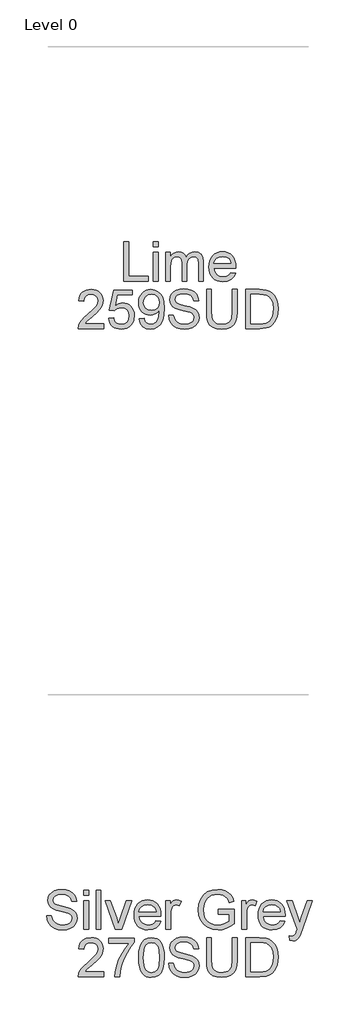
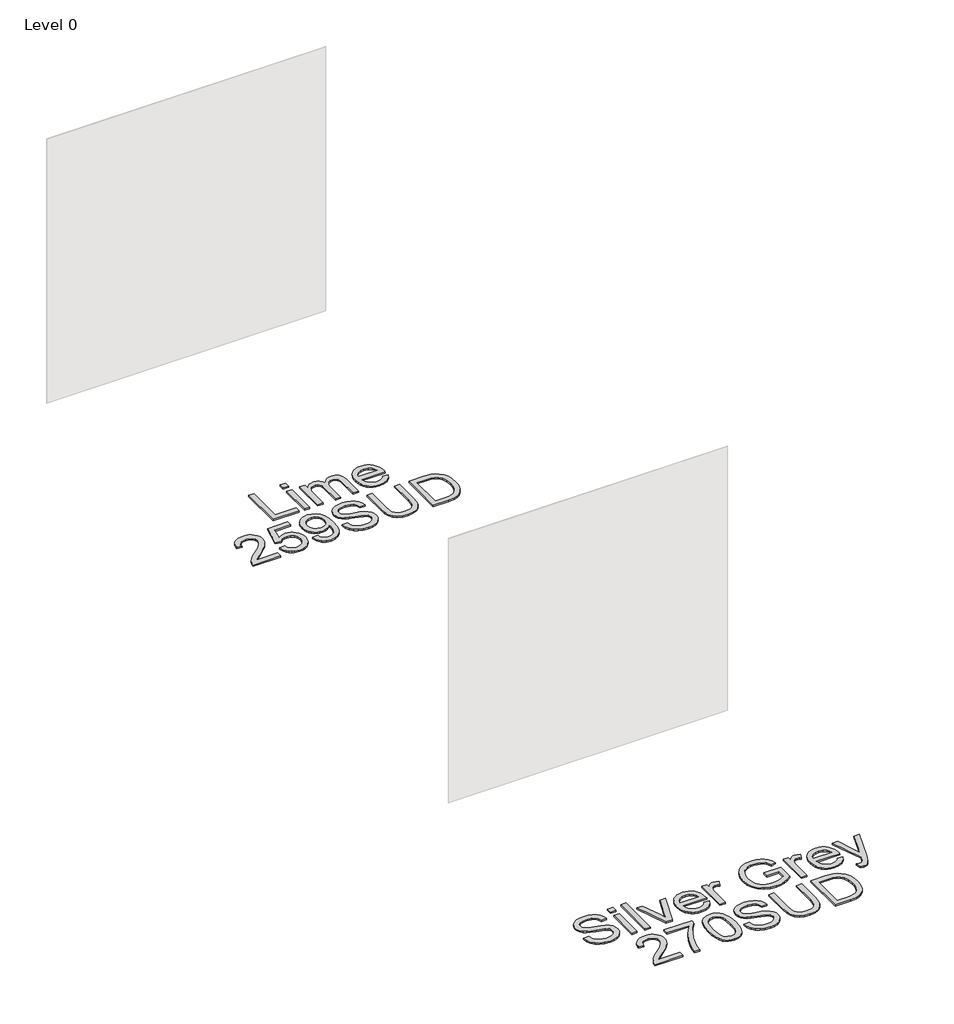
# One storey, part 7 of 37: 2 proxies.
"""IFC4 building model written with IfcOpenShell, lengths in millimetres."""

from ifc_helpers import new_model, si_unit, origin, origin_with_axes, place, context, project, spatial, polyline, outline, extrude, element, save

model = new_model("IFC4")

# Units and contexts
model_context = context("Model", 3, world=origin())
ifc_project = project(units=[si_unit("LENGTHUNIT", "METRE", prefix="MILLI")], contexts=[model_context])

# Site, building, storey
site = spatial("IfcSite", under=ifc_project)
building = spatial("IfcBuilding", under=site)
storey = spatial("IfcBuildingStorey", under=building, Name="Level 0", Elevation=0.0)

# Proxies
placement = place(None, origin())
element("IfcBuildingElementProxy", 1, Name="300mm Arial", ObjectType="300mm Arial", at=placement, inside=storey, context=model_context, shape_type="SweptSolid", body=[
    extrude(outline(polyline([(-4869.7492252, -26962.860494), (-4869.7492252, -26661.4915635), (-4832.0781089, -26661.4915635), (-4832.0781089, -26925.1893777), (-4681.3936437, -26925.1893777), (-4681.3936437, -26962.860494), (-4869.7492252, -26962.860494)])), origin_with_axes(), (0.0, 0.0, 1.0), 10.0),
    extrude(outline(polyline([(-4643.7225274, -26962.860494), (-4643.7225274, -26741.5426857), (-4606.0514111, -26741.5426857), (-4606.0514111, -26962.860494), (-4643.7225274, -26962.860494)])), origin_with_axes(), (0.0, 0.0, 1.0), 10.0),
    extrude(outline(polyline([(-4643.7225274, -26699.1626798), (-4643.7225274, -26661.4915635), (-4606.0514111, -26661.4915635), (-4606.0514111, -26699.1626798), (-4643.7225274, -26699.1626798)])), origin_with_axes(), (0.0, 0.0, 1.0), 10.0),
    extrude(outline(polyline([(-4549.5447366, -26962.860494), (-4549.5447366, -26741.5426857), (-4511.8736203, -26741.5426857), (-4511.8736203, -26777.9630032), (-4500.5428549, -26761.2335695), (-4485.9747278, -26748.1277734), (-4468.66588, -26739.6572905), (-4449.1129519, -26736.8337961), (-4428.1620723, -26739.7124728), (-4411.3682592, -26748.3485026), (-4398.8234832, -26762.1716686), (-4390.6197147, -26780.6117536), (-4376.8885192, -26761.4588972), (-4361.2259433, -26747.7782855), (-4343.6319869, -26739.5699185), (-4324.10665, -26736.8337961), (-4295.7889334, -26741.3863358), (-4274.8472508, -26755.0439549), (-4261.9070016, -26778.1745354), (-4257.5935852, -26811.1459592), (-4257.5935852, -26962.860494), (-4295.2647015, -26962.860494), (-4295.2647015, -26827.332767), (-4298.7595805, -26795.8788564), (-4303.6708051, -26787.2060383), (-4311.4147211, -26780.3910244), (-4321.3751262, -26775.9764404), (-4332.9358179, -26774.5049125), (-4353.3440715, -26778.2757029), (-4369.9815348, -26789.5880743), (-4381.0455858, -26809.2145787), (-4384.7336028, -26837.9277684), (-4384.7336028, -26962.860494), (-4422.4047191, -26962.860494), (-4422.4047191, -26823.1389122), (-4424.5844199, -26801.8385447), (-4431.1235224, -26786.6450183), (-4442.6290318, -26777.5399389), (-4459.7079534, -26774.5049125), (-4474.2208981, -26776.5282634), (-4487.5934086, -26782.5983163), (-4498.6298685, -26792.5679184), (-4506.1346612, -26806.2899168), (-4510.4388805, -26825.3278101), (-4511.8736203, -26851.2450966), (-4511.8736203, -26962.860494), (-4549.5447366, -26962.860494)])), origin_with_axes(), (0.0, 0.0, 1.0), 10.0),
    extrude(outline(polyline([(-4046.1350144, -26896.9360404), (-4009.1996621, -26901.64493), (-4022.5077933, -26929.4752029), (-4043.7437814, -26950.2789297), (-4072.42938, -26963.2467701), (-4108.0863424, -26967.5693835), (-4131.4606447, -26965.7046817), (-4152.2873641, -26960.1105761), (-4170.5665008, -26950.7870668), (-4186.2980546, -26937.7341537), (-4198.9485967, -26921.3151204), (-4207.9846982, -26901.8932503), (-4213.4063591, -26879.4685435), (-4215.2135794, -26854.0409998), (-4213.387965, -26827.7512327), (-4207.9111218, -26804.5792656), (-4198.7830498, -26784.5250983), (-4186.003749, -26767.5887309), (-4170.3135819, -26754.133447), (-4152.452911, -26744.5225298), (-4132.4217364, -26738.7559796), (-4110.220058, -26736.8337961), (-4088.7334502, -26738.751381), (-4069.3023831, -26744.5041357), (-4051.9268566, -26754.0920602), (-4036.6068707, -26767.5151545), (-4024.1011822, -26784.4147337), (-4015.1685475, -26804.4321128), (-4009.8089666, -26827.5672917), (-4008.0224397, -26853.8202706), (-4008.2431689, -26863.9738137), (-4177.5424631, -26863.9738137), (-4171.0217547, -26892.1719686), (-4155.8742136, -26912.902119), (-4134.012826, -26925.6492302), (-4107.3505784, -26929.8982672), (-4087.3010097, -26927.9300985), (-4070.4152261, -26922.0255925), (-4056.6932277, -26911.8168672), (-4046.1350144, -26896.9360404)]), holes=[polyline([(-4177.5424631, -26826.3026974), (-4045.693556, -26826.3026974), (-4050.7887216, -26806.4002814), (-4060.7767178, -26792.1632482), (-4082.7392729, -26778.9194964), (-4110.3672108, -26774.5049125), (-4135.7602655, -26778.0273826), (-4156.7571304, -26788.5947929), (-4171.3528485, -26805.0667092), (-4177.5424631, -26826.3026974)])]), origin_with_axes(), (0.0, 0.0, 1.0), 10.0),
    extrude(outline(polyline([(-5025.14258, -27291.1138312), (-5025.14258, -27328.7849475), (-5222.9159406, -27328.7849475), (-5218.8692386, -27302.8124787), (-5209.5802183, -27282.5145896), (-5195.9869785, -27262.8237058), (-5176.3236859, -27242.213117), (-5148.8245068, -27219.156113), (-5108.1735463, -27183.0484951), (-5083.78297, -27156.3954446), (-5071.5876819, -27134.7639833), (-5067.5225858, -27113.7211331), (-5071.3577556, -27094.8579838), (-5082.863265, -27079.1770138), (-5100.5491919, -27068.6096035), (-5122.9256143, -27065.0871334), (-5146.4240767, -27068.52683), (-5164.6802207, -27078.84592), (-5176.4616416, -27095.2350629), (-5180.5359347, -27116.8849183), (-5218.207051, -27112.1760288), (-5209.0743805, -27075.7373171), (-5200.5280219, -27061.2013798), (-5189.3283144, -27049.1210548), (-5175.7327754, -27039.6251008), (-5159.9989224, -27032.8422765), (-5122.1162739, -27027.4160171), (-5101.9264502, -27028.9243332), (-5083.957714, -27033.4492818), (-5068.2100653, -27040.9908627), (-5054.6835042, -27051.549076), (-5043.819489, -27064.3421723), (-5036.0594782, -27078.5884026), (-5031.4034717, -27094.2877667), (-5029.8514695, -27111.4402648), (-5031.5253326, -27129.4572855), (-5036.5469218, -27147.1616065), (-5045.4588632, -27165.1694302), (-5058.8037825, -27184.0969588), (-5080.0765589, -27206.6941104), (-5112.7720712, -27235.7108027), (-5156.1085703, -27271.9471793), (-5173.1047184, -27291.1138312), (-5025.14258, -27291.1138312)])), origin_with_axes(), (0.0, 0.0, 1.0), 10.0),
    extrude(outline(polyline([(-4987.4714637, -27248.7338254), (-4949.8003474, -27244.0249358), (-4942.8841659, -27266.6404815), (-4930.8176364, -27282.8364863), (-4913.6559413, -27292.5761621), (-4891.4542629, -27295.8227207), (-4864.4517245, -27291.3069693), (-4844.2182147, -27277.7597148), (-4831.5814682, -27256.7444558), (-4827.3692194, -27229.8246908), (-4831.3147538, -27204.4776213), (-4843.151357, -27185.0902402), (-4862.9709995, -27172.7845875), (-4890.8656517, -27168.6827032), (-4909.1401898, -27170.3197781), (-4923.9382431, -27175.2310027), (-4945.0914578, -27192.2271509), (-4982.7625741, -27187.5182614), (-4949.8003474, -27032.1249066), (-4803.8247717, -27032.1249066), (-4803.8247717, -27069.7960229), (-4919.3397182, -27069.7960229), (-4935.4529496, -27152.790201), (-4908.5423816, -27136.4562404), (-4880.3442267, -27131.0115869), (-4861.9984114, -27132.6992456), (-4845.1471168, -27137.7622215), (-4829.7903427, -27146.2005148), (-4815.9280893, -27158.0141254), (-4804.4524703, -27172.4810848), (-4796.2555996, -27188.8794248), (-4791.3374772, -27207.2091452), (-4789.6981031, -27227.470246), (-4795.6026091, -27265.1413624), (-4802.9832416, -27281.9351754), (-4813.3161272, -27297.3678251), (-4828.969506, -27313.1729553), (-4847.2348471, -27324.4623341), (-4868.1121503, -27331.2359613), (-4891.6014157, -27333.4938371), (-4928.6011474, -27327.6904986), (-4944.2798182, -27320.4363255), (-4958.0776923, -27310.2804832), (-4969.5579098, -27297.7288093), (-4978.2836108, -27283.2871418), (-4987.4714637, -27248.7338254)])), origin_with_axes(), (0.0, 0.0, 1.0), 10.0),
    extrude(outline(polyline([(-4752.0269868, -27253.4427149), (-4714.3558705, -27248.7338254), (-4707.9179355, -27270.1169663), (-4697.4332987, -27284.6758963), (-4683.1594773, -27293.0360146), (-4665.3539887, -27295.8227207), (-4649.3787131, -27294.029296), (-4634.8565713, -27288.6490218), (-4622.7900419, -27280.2705094), (-4614.1816032, -27269.4823699), (-4601.8575563, -27236.7408723), (-4596.4129028, -27193.0364913), (-4596.633632, -27185.6788514), (-4609.6842458, -27201.6081418), (-4626.7631674, -27214.2264942), (-4646.6379922, -27222.4486568), (-4668.0763155, -27225.1893777), (-4685.9714753, -27223.5155146), (-4702.4272968, -27218.4939254), (-4717.4437799, -27210.12461), (-4731.0209248, -27198.4075684), (-4742.2712161, -27183.9544045), (-4750.3071384, -27167.3767221), (-4755.1286918, -27148.6745212), (-4756.7358763, -27127.8478018), (-4755.0505169, -27106.326705), (-4749.9944387, -27087.0129003), (-4741.5676418, -27069.9063875), (-4729.770126, -27055.0071667), (-4715.4342245, -27042.9360387), (-4699.3922703, -27034.3138045), (-4681.6442633, -27029.1404639), (-4662.1902035, -27027.4160171), (-4634.0932162, -27031.3523544), (-4608.5162204, -27043.1613665), (-4587.1238824, -27062.254442), (-4571.5808681, -27088.0429699), (-4562.1171038, -27123.6907352), (-4558.9625157, -27172.3615232), (-4562.1079067, -27223.96617), (-4571.5440799, -27263.8537754), (-4587.1882618, -27293.8269609), (-4608.9576788, -27315.6883485), (-4635.914232, -27329.0424649), (-4667.1198223, -27333.4938371), (-4699.3278909, -27328.2423216), (-4725.0244483, -27312.4877751), (-4742.9954838, -27287.2234791), (-4752.0269868, -27253.4427149)]), holes=[polyline([(-4596.633632, -27126.964885), (-4600.698728, -27101.4338745), (-4612.8940162, -27081.788976), (-4631.8215448, -27069.262594), (-4656.0833624, -27065.0871334), (-4681.2464909, -27069.5844908), (-4701.4064242, -27083.0765629), (-4714.650176, -27103.7239399), (-4719.06476, -27129.6872117), (-4714.8892993, -27152.964945), (-4702.3629174, -27171.4418182), (-4682.6996248, -27183.4991506), (-4657.113432, -27187.5182614), (-4633.0447525, -27183.4991506), (-4613.6665684, -27171.4418182), (-4600.8918661, -27152.2843633), (-4596.633632, -27126.964885)])]), origin_with_axes(), (0.0, 0.0, 1.0), 10.0),
    extrude(outline(polyline([(-4526.0002889, -27225.1893777), (-4488.3291726, -27225.1893777), (-4484.0065592, -27246.0942721), (-4476.1890668, -27262.8972822), (-4463.9937786, -27276.2330045), (-4446.537778, -27286.7360355), (-4425.2006222, -27293.5510494), (-4401.361869, -27295.8227207), (-4380.3742011, -27294.1028724), (-4361.9984955, -27288.9433274), (-4347.1084717, -27280.7763471), (-4336.5778496, -27270.0341929), (-4330.3146586, -27257.700949), (-4328.2269283, -27244.7606998), (-4329.7904268, -27232.1515444), (-4334.4809222, -27221.2530403), (-4344.0090659, -27211.9548229), (-4360.0855091, -27204.1465276), (-4414.9367146, -27189.7623415), (-4450.9431649, -27180.2433949), (-4473.9817748, -27171.1843008), (-4492.7345595, -27158.510766), (-4506.0242966, -27143.1516928), (-4513.9429565, -27125.4381747), (-4516.5825098, -27105.7013056), (-4513.3175571, -27083.637583), (-4503.522699, -27063.0637824), (-4487.4554529, -27045.6261758), (-4465.3733361, -27032.9710352), (-4438.8674384, -27025.2731044), (-4409.5288492, -27022.7071275), (-4377.7438449, -27025.3926661), (-4349.931966, -27033.4492818), (-4327.0864941, -27046.7114277), (-4310.2007105, -27065.013557), (-4299.5137386, -27087.2152354), (-4295.2647015, -27112.1760288), (-4332.9358179, -27112.1760288), (-4339.8519994, -27089.6984389), (-4354.2729736, -27073.4748429), (-4376.8057458, -27063.6523936), (-4408.0573213, -27060.3782438), (-4440.0446607, -27063.6156054), (-4461.9888218, -27073.3276901), (-4474.6807506, -27087.6199056), (-4478.9113935, -27104.5976597), (-4475.9131553, -27119.0738162), (-4466.9184405, -27130.7172813), (-4445.6548612, -27141.1283418), (-4405.4085709, -27151.7601314), (-4363.8746936, -27161.8584922), (-4338.7483534, -27170.669266), (-4317.2732419, -27184.3360821), (-4302.2912477, -27201.2034716), (-4293.4896709, -27221.0874934), (-4290.555812, -27243.8042066), (-4293.9311293, -27267.0267576), (-4304.0570812, -27288.869751), (-4320.5198005, -27307.668521), (-4342.9054199, -27321.7584014), (-4369.8251849, -27330.5599781), (-4399.890341, -27333.4938371), (-4436.7981021, -27330.3300519), (-4467.1759579, -27320.8386964), (-4491.3733961, -27304.9829824), (-4509.7399047, -27282.7261217), (-4521.5305227, -27255.6132187), (-4526.0002889, -27225.1893777)])), origin_with_axes(), (0.0, 0.0, 1.0), 10.0),
    extrude(outline(polyline([(-4036.2757769, -27027.4160171), (-3998.6046606, -27027.4160171), (-3998.6046606, -27201.277048), (-4001.1614405, -27241.9923878), (-4008.8317801, -27273.3451308), (-4023.1607838, -27297.533372), (-4045.693556, -27316.7552063), (-4076.485279, -27329.3091794), (-4115.5911351, -27333.4938371), (-4153.8416655, -27329.8518053), (-4184.4218564, -27318.92571), (-4207.3409047, -27301.0926303), (-4222.6080075, -27276.7296452), (-4231.188855, -27244.052527), (-4234.0491375, -27201.277048), (-4234.0491375, -27027.4160171), (-4196.3780212, -27027.4160171), (-4196.3780212, -27199.9526728), (-4194.5202172, -27233.8070134), (-4188.9468049, -27257.3790523), (-4178.8484442, -27273.7038158), (-4163.4157945, -27285.8163305), (-4143.2926493, -27293.3211232), (-4119.1228023, -27295.8227207), (-4080.8078925, -27290.8747079), (-4066.4650932, -27284.6896919), (-4055.3320643, -27276.0306694), (-4046.9949386, -27263.8537754), (-4041.0398488, -27247.1151446), (-4036.2757769, -27199.9526728), (-4036.2757769, -27027.4160171)])), origin_with_axes(), (0.0, 0.0, 1.0), 10.0),
    extrude(outline(polyline([(-3932.6802071, -27328.7849475), (-3932.6802071, -27027.4160171), (-3828.7167553, -27027.4160171), (-3774.9324076, -27031.7570246), (-3750.9097133, -27040.12634), (-3730.6394153, -27053.3149095), (-3709.7989003, -27076.270746), (-3694.9548618, -27104.8183889), (-3686.0705116, -27138.406015), (-3683.1090616, -27176.4818015), (-3685.1140184, -27208.8278259), (-3691.1288891, -27237.2926953), (-3700.2891507, -27261.5269217), (-3711.7302808, -27281.1810173), (-3724.9004562, -27296.6964405), (-3739.247854, -27308.5146496), (-3755.7197704, -27317.2794381), (-3775.2635014, -27323.6345996), (-3823.7135601, -27328.7849475), (-3932.6802071, -27328.7849475)]), holes=[polyline([(-3895.0090908, -27291.1138312), (-3828.3488733, -27291.1138312), (-3800.7761177, -27289.7526678), (-3779.8620263, -27285.6691777), (-3764.0798887, -27279.1024841), (-3751.9029947, -27270.2917103), (-3738.8155927, -27253.9853408), (-3728.9839464, -27232.8781114), (-3722.83112, -27206.8780514), (-3720.7801779, -27175.8931903), (-3724.7992887, -27134.8375597), (-3736.8566211, -27104.5240833), (-3754.6713067, -27083.7019623), (-3775.9624772, -27071.1203981), (-3797.6307267, -27066.5954496), (-3829.3789429, -27065.0871334), (-3895.0090908, -27065.0871334), (-3895.0090908, -27291.1138312)])]), origin_with_axes(), (0.0, 0.0, 1.0), 10.0),
])
element("IfcBuildingElementProxy", 2, Name="300mm Arial", ObjectType="300mm Arial", at=placement, inside=storey, context=model_context, shape_type="SweptSolid", body=[
    extrude(outline(polyline([(-5465.4237518, -31849.2649241), (-5427.7526355, -31849.2649241), (-5423.4300221, -31870.1698185), (-5415.6125297, -31886.9728286), (-5403.4172415, -31900.308551), (-5385.9612408, -31910.8115819), (-5364.6240851, -31917.6265959), (-5340.7853318, -31919.8982672), (-5319.797664, -31918.1784189), (-5301.4219584, -31913.0188739), (-5286.5319346, -31904.8518936), (-5276.0013125, -31894.1097394), (-5269.7381215, -31881.7764955), (-5267.6503912, -31868.8362463), (-5269.2138897, -31856.2270909), (-5273.9043851, -31845.3285868), (-5283.4325288, -31836.0303694), (-5299.508972, -31828.222074), (-5354.3601775, -31813.837888), (-5390.3666277, -31804.3189414), (-5413.4052377, -31795.2598472), (-5432.1580224, -31782.5863125), (-5445.4477595, -31767.2272392), (-5453.3664194, -31749.5137211), (-5456.0059727, -31729.7768521), (-5452.74102, -31707.7131294), (-5442.9461619, -31687.1393289), (-5426.8789158, -31669.7017223), (-5404.796799, -31657.0465817), (-5378.2909012, -31649.3486509), (-5348.9523121, -31646.782674), (-5317.1673077, -31649.4682126), (-5289.3554289, -31657.5248283), (-5266.509957, -31670.7869742), (-5249.6241734, -31689.0891034), (-5238.9372015, -31711.2907818), (-5234.6881644, -31736.2515752), (-5272.3592807, -31736.2515752), (-5279.2754622, -31713.7739853), (-5293.6964365, -31697.5503893), (-5316.2292087, -31687.7279401), (-5347.4807841, -31684.4537903), (-5379.4681236, -31687.6911519), (-5401.4122846, -31697.4032365), (-5414.1042135, -31711.695452), (-5418.3348564, -31728.6732061), (-5415.3366182, -31743.1493626), (-5406.3419034, -31754.7928278), (-5385.0783241, -31765.2038882), (-5344.8320338, -31775.8356779), (-5303.2981565, -31785.9340387), (-5278.1718163, -31794.7448125), (-5256.6967048, -31808.4116286), (-5241.7147105, -31825.2790181), (-5232.9131338, -31845.1630399), (-5229.9792749, -31867.8797531), (-5233.3545922, -31891.102304), (-5243.4805441, -31912.9452975), (-5259.9432634, -31931.7440675), (-5282.3288828, -31945.8339479), (-5309.2486478, -31954.6355246), (-5339.3138039, -31957.5693835), (-5376.221565, -31954.4055984), (-5406.5994208, -31944.9142429), (-5430.796859, -31929.0585289), (-5449.1633676, -31906.8016682), (-5460.9539856, -31879.6887651), (-5465.4237518, -31849.2649241)])), origin_with_axes(), (0.0, 0.0, 1.0), 10.0),
    extrude(outline(polyline([(-5178.18149, -31689.1626798), (-5178.18149, -31651.4915635), (-5140.5103737, -31651.4915635), (-5140.5103737, -31689.1626798), (-5178.18149, -31689.1626798)])), origin_with_axes(), (0.0, 0.0, 1.0), 10.0),
    extrude(outline(polyline([(-5178.18149, -31952.860494), (-5178.18149, -31731.5426857), (-5140.5103737, -31731.5426857), (-5140.5103737, -31952.860494), (-5178.18149, -31952.860494)])), origin_with_axes(), (0.0, 0.0, 1.0), 10.0),
    extrude(outline(polyline([(-5084.0036992, -31952.860494), (-5084.0036992, -31651.4915635), (-5046.3325829, -31651.4915635), (-5046.3325829, -31952.860494), (-5084.0036992, -31952.860494)])), origin_with_axes(), (0.0, 0.0, 1.0), 10.0),
    extrude(outline(polyline([(-4935.526526, -31952.860494), (-5013.3703561, -31731.5426857), (-4973.4919479, -31731.5426857), (-4926.3294761, -31864.1273567), (-4912.1292311, -31908.7146546), (-4898.2232916, -31866.6289543), (-4850.7665143, -31731.5426857), (-4810.888106, -31731.5426857), (-4887.775443, -31952.860494), (-4935.526526, -31952.860494)])), origin_with_axes(), (0.0, 0.0, 1.0), 10.0),
    extrude(outline(polyline([(-4622.9739828, -31886.9360404), (-4586.0386305, -31891.64493), (-4599.3467617, -31919.4752029), (-4620.5827499, -31940.2789297), (-4649.2683485, -31953.2467701), (-4684.9253108, -31957.5693835), (-4708.2996131, -31955.7046817), (-4729.1263326, -31950.1105761), (-4747.4054692, -31940.7870668), (-4763.137023, -31927.7341537), (-4775.7875651, -31911.3151204), (-4784.8236666, -31891.8932503), (-4790.2453275, -31869.4685435), (-4792.0525478, -31844.0409998), (-4790.2269334, -31817.7512327), (-4784.7500902, -31794.5792656), (-4775.6220182, -31774.5250983), (-4762.8427174, -31757.5887309), (-4747.1525503, -31744.133447), (-4729.2918795, -31734.5225298), (-4709.2607048, -31728.7559796), (-4687.0590264, -31726.8337961), (-4665.5724186, -31728.751381), (-4646.1413515, -31734.5041357), (-4628.765825, -31744.0920602), (-4613.4458392, -31757.5151545), (-4600.9401506, -31774.4147337), (-4592.0075159, -31794.4321128), (-4586.6479351, -31817.5672917), (-4584.8614081, -31843.8202706), (-4585.0821373, -31853.9738137), (-4754.3814315, -31853.9738137), (-4747.8607232, -31882.1719686), (-4732.713182, -31902.902119), (-4710.8517944, -31915.6492302), (-4684.1895468, -31919.8982672), (-4664.1399781, -31917.9300985), (-4647.2541945, -31912.0255925), (-4633.5321961, -31901.8168672), (-4622.9739828, -31886.9360404)]), holes=[polyline([(-4754.3814315, -31816.3026974), (-4622.5325245, -31816.3026974), (-4627.6276901, -31796.4002814), (-4637.6156863, -31782.1632482), (-4659.5782414, -31768.9194964), (-4687.2061792, -31764.5049125), (-4712.5992339, -31768.0273826), (-4733.5960988, -31778.5947929), (-4748.191817, -31795.0667092), (-4754.3814315, -31816.3026974)])]), origin_with_axes(), (0.0, 0.0, 1.0), 10.0),
    extrude(outline(polyline([(-4547.1902918, -31952.860494), (-4547.1902918, -31731.5426857), (-4514.2280651, -31731.5426857), (-4514.2280651, -31764.2841833), (-4502.051171, -31745.3014723), (-4490.8307702, -31734.1178596), (-4479.5735811, -31728.654812), (-4467.2863225, -31726.8337961), (-4448.5243407, -31729.7400639), (-4429.4680534, -31738.4588672), (-4442.0496176, -31772.2304343), (-4455.2933694, -31766.4362929), (-4468.5371213, -31764.5049125), (-4479.7851133, -31766.3627165), (-4489.8374888, -31771.9361288), (-4497.9584838, -31780.8020848), (-4503.4123344, -31792.5375205), (-4507.9924653, -31813.5803706), (-4509.5191755, -31836.5362071), (-4509.5191755, -31952.860494), (-4547.1902918, -31952.860494)])), origin_with_axes(), (0.0, 0.0, 1.0), 10.0),
    extrude(outline(polyline([(-4142.2257916, -31835.1382555), (-4142.2257916, -31797.4671392), (-4019.7946636, -31797.4671392), (-4019.7946636, -31910.1126061), (-4049.5471199, -31930.8059684), (-4080.2376754, -31945.6500069), (-4111.7927535, -31954.5895394), (-4144.1387779, -31957.5693835), (-4186.3992221, -31952.8329028), (-4224.5945703, -31938.6234608), (-4256.3243924, -31915.437698), (-4279.1882584, -31883.7722553), (-4293.0114243, -31845.7884393), (-4297.6191463, -31803.6475567), (-4293.0298184, -31761.2031715), (-4279.2618348, -31721.7202364), (-4256.8854124, -31688.6016598), (-4226.4707684, -31665.2503502), (-4189.4250515, -31651.399593), (-4147.1554103, -31646.782674), (-4116.124564, -31649.4590155), (-4088.2207147, -31657.4880401), (-4064.7222522, -31670.2903335), (-4046.9075666, -31687.2864817), (-4033.7281941, -31709.295022), (-4024.1356711, -31737.134492), (-4058.8637314, -31746.9201531), (-4066.6168445, -31727.0637224), (-4076.0438206, -31712.0817281), (-4088.5150203, -31700.7877509), (-4105.4008038, -31691.9953712), (-4125.533146, -31686.3391855), (-4147.7440215, -31684.4537903), (-4173.7440815, -31686.4863383), (-4195.973351, -31692.5839824), (-4214.3490567, -31701.9833674), (-4228.788425, -31713.9211381), (-4248.1758062, -31742.9470275), (-4257.004974, -31771.3843058), (-4259.94803, -31802.1024524), (-4256.4071658, -31838.1272967), (-4245.7845732, -31867.7693885), (-4228.4021489, -31890.8171955), (-4204.5817897, -31907.0591856), (-4176.7055315, -31916.6884968), (-4147.1554103, -31919.8982672), (-4121.0633798, -31917.4794431), (-4095.6151428, -31910.2229707), (-4073.5146319, -31900.2257775), (-4057.4657799, -31889.5847908), (-4057.4657799, -31835.1382555), (-4142.2257916, -31835.1382555)])), origin_with_axes(), (0.0, 0.0, 1.0), 10.0),
    extrude(outline(polyline([(-3963.2879891, -31952.860494), (-3963.2879891, -31731.5426857), (-3930.3257623, -31731.5426857), (-3930.3257623, -31764.2841833), (-3918.1488683, -31745.3014723), (-3906.9284674, -31734.1178596), (-3895.6712784, -31728.654812), (-3883.3840197, -31726.8337961), (-3864.622038, -31729.7400639), (-3845.5657506, -31738.4588672), (-3858.1473149, -31772.2304343), (-3871.3910667, -31766.4362929), (-3884.6348185, -31764.5049125), (-3895.8828105, -31766.3627165), (-3905.935186, -31771.9361288), (-3914.0561811, -31780.8020848), (-3919.5100317, -31792.5375205), (-3924.0901625, -31813.5803706), (-3925.6168728, -31836.5362071), (-3925.6168728, -31952.860494), (-3963.2879891, -31952.860494)])), origin_with_axes(), (0.0, 0.0, 1.0), 10.0),
    extrude(outline(polyline([(-3667.0694066, -31886.9360404), (-3630.1340543, -31891.64493), (-3643.4421854, -31919.4752029), (-3664.6781736, -31940.2789297), (-3693.3637722, -31953.2467701), (-3729.0207346, -31957.5693835), (-3752.3950368, -31955.7046817), (-3773.2217563, -31950.1105761), (-3791.5008929, -31940.7870668), (-3807.2324467, -31927.7341537), (-3819.8829889, -31911.3151204), (-3828.9190904, -31891.8932503), (-3834.3407513, -31869.4685435), (-3836.1479716, -31844.0409998), (-3834.3223572, -31817.7512327), (-3828.845514, -31794.5792656), (-3819.717442, -31774.5250983), (-3806.9381411, -31757.5887309), (-3791.2479741, -31744.133447), (-3773.3873032, -31734.5225298), (-3753.3561285, -31728.7559796), (-3731.1544501, -31726.8337961), (-3709.6678424, -31728.751381), (-3690.2367752, -31734.5041357), (-3672.8612487, -31744.0920602), (-3657.5412629, -31757.5151545), (-3645.0355743, -31774.4147337), (-3636.1029396, -31794.4321128), (-3630.7433588, -31817.5672917), (-3628.9568319, -31843.8202706), (-3629.1775611, -31853.9738137), (-3798.4768553, -31853.9738137), (-3791.9561469, -31882.1719686), (-3776.8086057, -31902.902119), (-3754.9472182, -31915.6492302), (-3728.2849706, -31919.8982672), (-3708.2354018, -31917.9300985), (-3691.3496183, -31912.0255925), (-3677.6276198, -31901.8168672), (-3667.0694066, -31886.9360404)]), holes=[polyline([(-3798.4768553, -31816.3026974), (-3666.6279482, -31816.3026974), (-3671.7231138, -31796.4002814), (-3681.71111, -31782.1632482), (-3703.6736651, -31768.9194964), (-3731.3016029, -31764.5049125), (-3756.6946577, -31768.0273826), (-3777.6915225, -31778.5947929), (-3792.2872407, -31795.0667092), (-3798.4768553, -31816.3026974)])]), origin_with_axes(), (0.0, 0.0, 1.0), 10.0),
    extrude(outline(polyline([(-3591.2857156, -32037.6205057), (-3595.9946051, -32001.3473409), (-3576.8647414, -32004.6582789), (-3558.9856764, -32000.5012124), (-3548.0227929, -31988.9129295), (-3537.7220971, -31961.1746271), (-3534.7790411, -31952.0511536), (-3614.8301633, -31731.5426857), (-3575.0989078, -31731.5426857), (-3532.6453255, -31854.4152721), (-3517.8564693, -31903.5643066), (-3503.0676131, -31860.1542312), (-3459.4368085, -31731.5426857), (-3419.9998586, -31731.5426857), (-3497.0343484, -31958.1579947), (-3517.0471289, -32007.3070293), (-3527.2926425, -32022.9971964), (-3538.8993195, -32033.8681093), (-3552.3821946, -32040.2140737), (-3568.2563027, -32042.3293952), (-3591.2857156, -32037.6205057)])), origin_with_axes(), (0.0, 0.0, 1.0), 10.0),
    extrude(outline(polyline([(-5025.14258, -32281.1138312), (-5025.14258, -32318.7849475), (-5222.9159406, -32318.7849475), (-5218.8692386, -32292.8124787), (-5209.5802183, -32272.5145896), (-5195.9869785, -32252.8237058), (-5176.3236859, -32232.213117), (-5148.8245068, -32209.156113), (-5108.1735463, -32173.0484951), (-5083.78297, -32146.3954446), (-5071.5876819, -32124.7639833), (-5067.5225858, -32103.7211331), (-5071.3577556, -32084.8579838), (-5082.863265, -32069.1770138), (-5100.5491919, -32058.6096035), (-5122.9256143, -32055.0871334), (-5146.4240767, -32058.52683), (-5164.6802207, -32068.84592), (-5176.4616416, -32085.2350629), (-5180.5359347, -32106.8849183), (-5218.207051, -32102.1760288), (-5209.0743805, -32065.7373171), (-5200.5280219, -32051.2013798), (-5189.3283144, -32039.1210548), (-5175.7327754, -32029.6251008), (-5159.9989224, -32022.8422765), (-5122.1162739, -32017.4160171), (-5101.9264502, -32018.9243332), (-5083.957714, -32023.4492818), (-5068.2100653, -32030.9908627), (-5054.6835042, -32041.549076), (-5043.819489, -32054.3421723), (-5036.0594782, -32068.5884026), (-5031.4034717, -32084.2877667), (-5029.8514695, -32101.4402648), (-5031.5253326, -32119.4572855), (-5036.5469218, -32137.1616065), (-5045.4588632, -32155.1694302), (-5058.8037825, -32174.0969588), (-5080.0765589, -32196.6941104), (-5112.7720712, -32225.7108027), (-5156.1085703, -32261.9471793), (-5173.1047184, -32281.1138312), (-5025.14258, -32281.1138312)])), origin_with_axes(), (0.0, 0.0, 1.0), 10.0),
    extrude(outline(polyline([(-4987.4714637, -32059.7960229), (-4987.4714637, -32022.1249066), (-4789.6981031, -32022.1249066), (-4789.6981031, -32052.5855358), (-4817.8870609, -32088.2608923), (-4845.8001073, -32133.6299393), (-4870.4206099, -32184.5540045), (-4888.7319362, -32236.8944154), (-4897.7082568, -32276.0554538), (-4902.711452, -32318.7849475), (-4940.3825683, -32318.7849475), (-4936.3082752, -32279.9550029), (-4925.4097711, -32233.8042066), (-4907.9813616, -32184.8850983), (-4884.3173522, -32137.7502177), (-4856.6894144, -32095.1402856), (-4827.3692194, -32059.7960229), (-4987.4714637, -32059.7960229)])), origin_with_axes(), (0.0, 0.0, 1.0), 10.0),
    extrude(outline(polyline([(-4756.7358763, -32170.5285035), (-4753.9675643, -32122.2899768), (-4745.6626282, -32083.8187172), (-4731.9038416, -32054.5261133), (-4712.7739779, -32033.8235541), (-4688.1350812, -32021.5179013), (-4657.849196, -32017.4160171), (-4634.6358421, -32019.8440382), (-4613.8505094, -32027.1281017), (-4596.4680851, -32038.983099), (-4583.4634566, -32055.1239216), (-4573.6410073, -32075.4126136), (-4565.8051208, -32099.7112194), (-4560.673167, -32130.5673217), (-4558.9625157, -32170.5285035), (-4561.7032366, -32218.4911186), (-4569.9253991, -32256.8704077), (-4583.6014123, -32286.1906027), (-4602.7036849, -32306.9759355), (-4627.3977638, -32319.3643617), (-4657.849196, -32323.4938371), (-4678.5977405, -32321.7004123), (-4696.9918403, -32316.3201381), (-4713.0314953, -32307.3530145), (-4726.7167055, -32294.7990414), (-4739.8500927, -32272.1053209), (-4749.2310836, -32243.828991), (-4754.8596781, -32209.9700519), (-4756.7358763, -32170.5285035)]), holes=[polyline([(-4719.06476, -32170.4549271), (-4714.650176, -32229.7115194), (-4709.1319461, -32249.9795181), (-4701.4064242, -32264.0073184), (-4681.6879493, -32280.3688702), (-4657.849196, -32285.8227207), (-4634.0104427, -32280.3504761), (-4614.2919678, -32263.933742), (-4606.5664459, -32249.8829491), (-4601.0482159, -32229.6195489), (-4596.633632, -32170.4549271), (-4600.9010631, -32112.5319069), (-4606.2353521, -32092.3305869), (-4613.7033566, -32077.9693935), (-4633.3850433, -32060.8076984), (-4658.2906544, -32055.0871334), (-4681.8718903, -32060.1271167), (-4700.817813, -32075.2470667), (-4708.8008523, -32090.8820515), (-4714.5030232, -32111.9616898), (-4719.06476, -32170.4549271)])]), origin_with_axes(), (0.0, 0.0, 1.0), 10.0),
    extrude(outline(polyline([(-4526.0002889, -32215.1893777), (-4488.3291726, -32215.1893777), (-4484.0065592, -32236.0942721), (-4476.1890668, -32252.8972822), (-4463.9937786, -32266.2330045), (-4446.537778, -32276.7360355), (-4425.2006222, -32283.5510494), (-4401.361869, -32285.8227207), (-4380.3742011, -32284.1028724), (-4361.9984955, -32278.9433274), (-4347.1084717, -32270.7763471), (-4336.5778496, -32260.0341929), (-4330.3146586, -32247.700949), (-4328.2269283, -32234.7606998), (-4329.7904268, -32222.1515444), (-4334.4809222, -32211.2530403), (-4344.0090659, -32201.9548229), (-4360.0855091, -32194.1465276), (-4414.9367146, -32179.7623415), (-4450.9431649, -32170.2433949), (-4473.9817748, -32161.1843008), (-4492.7345595, -32148.510766), (-4506.0242966, -32133.1516928), (-4513.9429565, -32115.4381747), (-4516.5825098, -32095.7013056), (-4513.3175571, -32073.637583), (-4503.522699, -32053.0637824), (-4487.4554529, -32035.6261758), (-4465.3733361, -32022.9710352), (-4438.8674384, -32015.2731044), (-4409.5288492, -32012.7071275), (-4377.7438449, -32015.3926661), (-4349.931966, -32023.4492818), (-4327.0864941, -32036.7114277), (-4310.2007105, -32055.013557), (-4299.5137386, -32077.2152354), (-4295.2647015, -32102.1760288), (-4332.9358179, -32102.1760288), (-4339.8519994, -32079.6984389), (-4354.2729736, -32063.4748429), (-4376.8057458, -32053.6523936), (-4408.0573213, -32050.3782438), (-4440.0446607, -32053.6156054), (-4461.9888218, -32063.3276901), (-4474.6807506, -32077.6199056), (-4478.9113935, -32094.5976597), (-4475.9131553, -32109.0738162), (-4466.9184405, -32120.7172813), (-4445.6548612, -32131.1283418), (-4405.4085709, -32141.7601314), (-4363.8746936, -32151.8584922), (-4338.7483534, -32160.669266), (-4317.2732419, -32174.3360821), (-4302.2912477, -32191.2034716), (-4293.4896709, -32211.0874934), (-4290.555812, -32233.8042066), (-4293.9311293, -32257.0267576), (-4304.0570812, -32278.869751), (-4320.5198005, -32297.668521), (-4342.9054199, -32311.7584014), (-4369.8251849, -32320.5599781), (-4399.890341, -32323.4938371), (-4436.7981021, -32320.3300519), (-4467.1759579, -32310.8386964), (-4491.3733961, -32294.9829824), (-4509.7399047, -32272.7261217), (-4521.5305227, -32245.6132187), (-4526.0002889, -32215.1893777)])), origin_with_axes(), (0.0, 0.0, 1.0), 10.0),
    extrude(outline(polyline([(-4036.2757769, -32017.4160171), (-3998.6046606, -32017.4160171), (-3998.6046606, -32191.277048), (-4001.1614405, -32231.9923878), (-4008.8317801, -32263.3451308), (-4023.1607838, -32287.533372), (-4045.693556, -32306.7552063), (-4076.485279, -32319.3091794), (-4115.5911351, -32323.4938371), (-4153.8416655, -32319.8518053), (-4184.4218564, -32308.92571), (-4207.3409047, -32291.0926303), (-4222.6080075, -32266.7296452), (-4231.188855, -32234.052527), (-4234.0491375, -32191.277048), (-4234.0491375, -32017.4160171), (-4196.3780212, -32017.4160171), (-4196.3780212, -32189.9526728), (-4194.5202172, -32223.8070134), (-4188.9468049, -32247.3790523), (-4178.8484442, -32263.7038158), (-4163.4157945, -32275.8163305), (-4143.2926493, -32283.3211232), (-4119.1228023, -32285.8227207), (-4080.8078925, -32280.8747079), (-4066.4650932, -32274.6896919), (-4055.3320643, -32266.0306694), (-4046.9949386, -32253.8537754), (-4041.0398488, -32237.1151446), (-4036.2757769, -32189.9526728), (-4036.2757769, -32017.4160171)])), origin_with_axes(), (0.0, 0.0, 1.0), 10.0),
    extrude(outline(polyline([(-3932.6802071, -32318.7849475), (-3932.6802071, -32017.4160171), (-3828.7167553, -32017.4160171), (-3774.9324076, -32021.7570246), (-3750.9097133, -32030.12634), (-3730.6394153, -32043.3149095), (-3709.7989003, -32066.270746), (-3694.9548618, -32094.8183889), (-3686.0705116, -32128.406015), (-3683.1090616, -32166.4818015), (-3685.1140184, -32198.8278259), (-3691.1288891, -32227.2926953), (-3700.2891507, -32251.5269217), (-3711.7302808, -32271.1810173), (-3724.9004562, -32286.6964405), (-3739.247854, -32298.5146496), (-3755.7197704, -32307.2794381), (-3775.2635014, -32313.6345996), (-3823.7135601, -32318.7849475), (-3932.6802071, -32318.7849475)]), holes=[polyline([(-3895.0090908, -32281.1138312), (-3828.3488733, -32281.1138312), (-3800.7761177, -32279.7526678), (-3779.8620263, -32275.6691777), (-3764.0798887, -32269.1024841), (-3751.9029947, -32260.2917103), (-3738.8155927, -32243.9853408), (-3728.9839464, -32222.8781114), (-3722.83112, -32196.8780514), (-3720.7801779, -32165.8931903), (-3724.7992887, -32124.8375597), (-3736.8566211, -32094.5240833), (-3754.6713067, -32073.7019623), (-3775.9624772, -32061.1203981), (-3797.6307267, -32056.5954496), (-3829.3789429, -32055.0871334), (-3895.0090908, -32055.0871334), (-3895.0090908, -32281.1138312)])]), origin_with_axes(), (0.0, 0.0, 1.0), 10.0),
])

save(model, "model.ifc")
